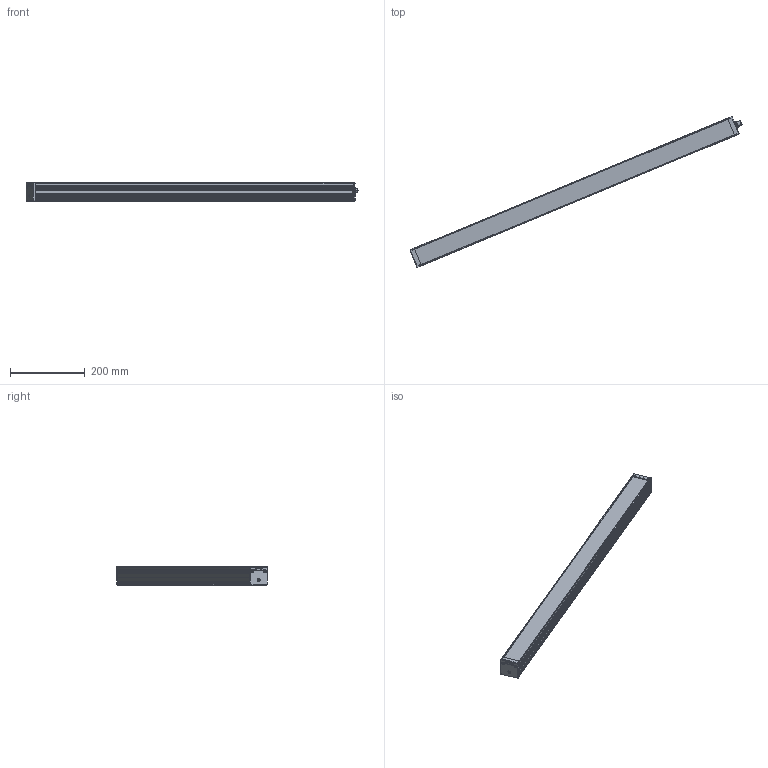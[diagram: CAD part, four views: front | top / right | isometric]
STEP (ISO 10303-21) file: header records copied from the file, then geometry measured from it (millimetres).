
FILE_DESCRIPTION (( 'STEP AP214' ), '1' );
FILE_NAME ('EFFI-FLEX-45.STEP', '2021-05-25T13:13:27', ( '' ), ( '' ), 'SwSTEP 2.0', 'SolidWorks 2021', '' );
FILE_SCHEMA (( 'AUTOMOTIVE_DESIGN' ));
Length unit declared in the file: millimetre
Products named in the file (6): 018302; 001596A323; 000605; EFFI-FLEX-45; 000096; 018305
Assembly tree (10 placements, depth 2):
  EFFI-FLEX-45
    018302
    000096
    018305
    001596A323
    000605  x6
Bounding box: 890.54 x 404.49 x 49.12 mm (x, y, z)
Volume: 1768987 mm3; surface area: 540557.3 mm2
Topology: 12 solids, 12 shells, 1487 faces, 3903 edges, 2538 vertices
Faces by surface type: plane 839, cylinder 331, cone 162, bspline 149, torus 6
Entity records: 54259 total; most frequent: CARTESIAN_POINT 14759, ORIENTED_EDGE 6888, DIRECTION 6315, EDGE_CURVE 3444, VECTOR 2335, LINE 2335, VERTEX_POINT 2273, AXIS2_PLACEMENT_3D 1990
